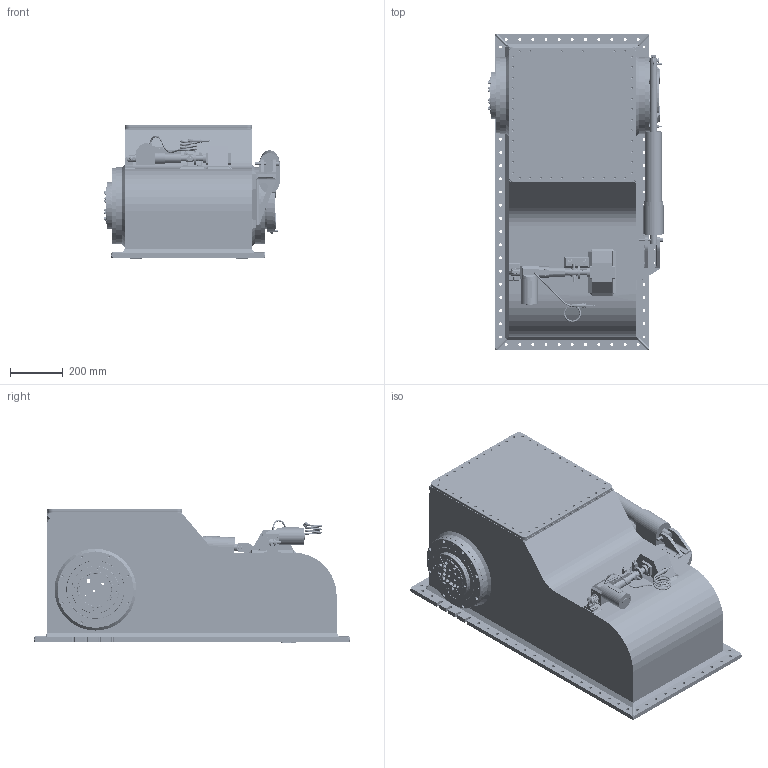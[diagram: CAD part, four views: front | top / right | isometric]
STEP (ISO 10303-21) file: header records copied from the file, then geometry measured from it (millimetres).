
FILE_DESCRIPTION(/* description */ (''),/* implementation_level */ '2;1');
FILE_NAME(/* name */ 'Q:\THRUSTERS\THRUSTER SALES & SUPPORT DOCS\THRUSTER Sales\E-S\E-0300-S\E-0300-S RETRACTED.stp',/* time_stamp */ '2021-03-24T12:21:56+00:00',/* author */ ('Barney.Webborn'),/* organization */ (''),/* preprocessor_version */ 'ST-DEVELOPER v17.2',/* originating_system */ 'Autodesk Inventor 2019',/* authorisation */ '');
FILE_SCHEMA (('AUTOMOTIVE_DESIGN { 1 0 10303 214 3 1 1 }'));
Products named in the file (1): E-0300-S_Shrinkwrap_1
Bounding box: 664.75 x 1197 x 510.07 mm (x, y, z)
Volume: 56005544 mm3; surface area: 7804701.9 mm2
Topology: 8 solids, 643 shells, 4777 faces, 14105 edges, 10397 vertices
Faces by surface type: plane 2396, cylinder 1428, bspline 447, cone 297, torus 183, sphere 26
Full cylindrical faces by diameter (mm): 2 x8, 2.459 x4, 2.5 x2, 3 x8, 3.2 x1, 3.3 x4, 4.2 x40, 4.917 x4, 5 x5, 5.1 x12, 5.2 x16, 5.5 x33, 5.85 x2, 6 x8, 6.2 x4, 6.4 x4, 6.5 x4, 6.647 x8, 6.8 x4, 7 x4, 8 x7, 8.16 x1, 8.3 x81, 8.5 x57, 8.8 x95, 9 x28, 9.5 x1, 10 x7, 10.3 x20, 10.4 x12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
Entity records: 192029 total; most frequent: CARTESIAN_POINT 59734, DIRECTION 25790, ORIENTED_EDGE 24770, EDGE_CURVE 13959, VERTEX_POINT 10401, AXIS2_PLACEMENT_3D 9038, LINE 7714, VECTOR 7714
